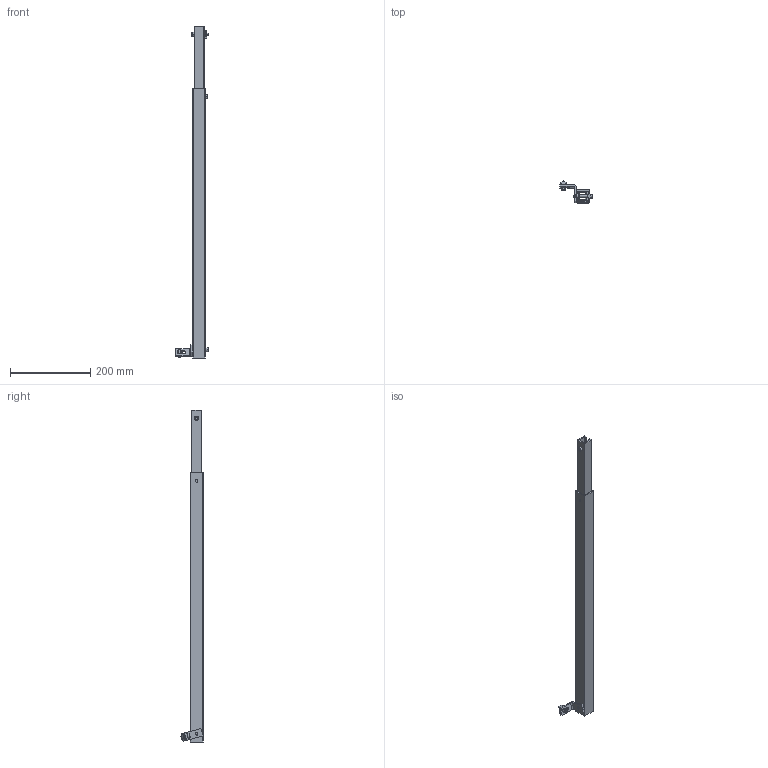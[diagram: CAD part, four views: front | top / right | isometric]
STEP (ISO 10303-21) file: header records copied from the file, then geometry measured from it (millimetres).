
FILE_DESCRIPTION((''),'2;1');
FILE_NAME('233003_ASM','2019-06-19T',('james.horst'),(''),'PRO/ENGINEER BY PARAMETRIC TECHNOLOGY CORPORATION, 2012420','PRO/ENGINEER BY PARAMETRIC TECHNOLOGY CORPORATION, 2012420','');
FILE_SCHEMA(('CONFIG_CONTROL_DESIGN'));
Length unit declared in the file: inch
Products named in the file (12): 233203; 233107; 930420M; 990403M; 639971M; 920612M; 233108M; 911-007; 920640M; 920616M; 920635M; 233003_ASM
Assembly tree (13 placements, depth 2):
  233003_ASM
    233203
    233107
    930420M
    990403M
    639971M  x3
    920612M
    233108M
    911-007
    920640M
    920616M
    920635M
Bounding box: 81.82 x 55.08 x 829.73 mm (x, y, z)
Volume: 346903 mm3; surface area: 223204.2 mm2
Topology: 13 solids, 17 shells, 255 faces, 630 edges, 410 vertices
Faces by surface type: plane 137, cylinder 96, cone 22
Entity records: 6114 total; most frequent: DIRECTION 1088, CARTESIAN_POINT 1008, ORIENTED_EDGE 940, EDGE_CURVE 474, AXIS2_PLACEMENT_3D 386, VECTOR 316, LINE 316, VERTEX_POINT 306
